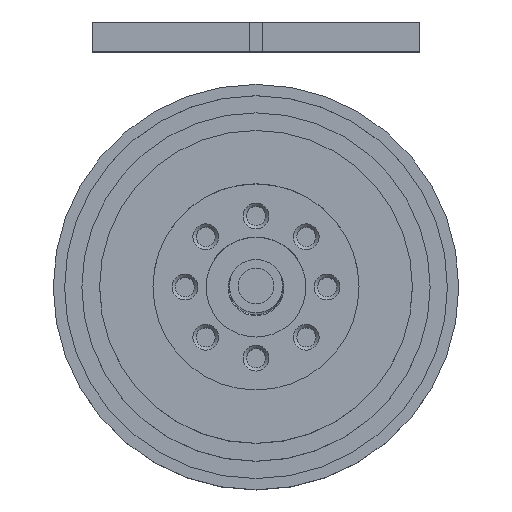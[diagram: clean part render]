
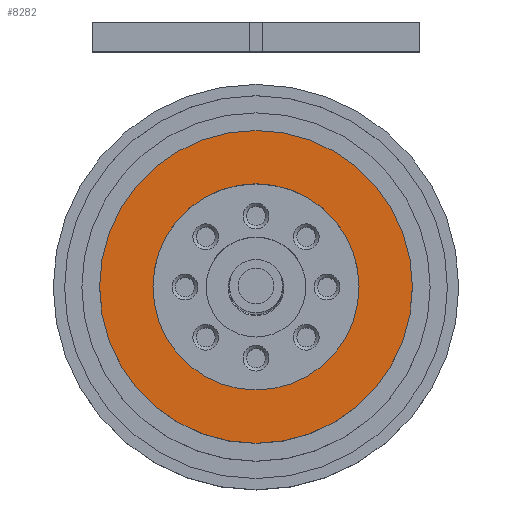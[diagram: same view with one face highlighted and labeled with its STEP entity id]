
A CAD part, top view. The second image highlights one B-rep face of the part: STEP entity #8282.
In plain terms, the highlighted planar face has unit normal (0, 0, 1).
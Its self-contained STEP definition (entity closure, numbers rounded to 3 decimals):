
#747=FACE_BOUND('',#1620,.T.);
#802=PLANE('',#9084);
#1030=FACE_OUTER_BOUND('',#1619,.T.);
#1619=EDGE_LOOP('',(#6373,#6374));
#1620=EDGE_LOOP('',(#6375,#6376));
#2774=CIRCLE('',#9082,35.197);
#2775=CIRCLE('',#9083,35.197);
#2776=CIRCLE('',#9085,23.197);
#2777=CIRCLE('',#9086,23.197);
#3552=VERTEX_POINT('',#14864);
#3553=VERTEX_POINT('',#14865);
#3554=VERTEX_POINT('',#14870);
#3555=VERTEX_POINT('',#14871);
#4549=EDGE_CURVE('',#3552,#3553,#2774,.T.);
#4550=EDGE_CURVE('',#3553,#3552,#2775,.T.);
#4552=EDGE_CURVE('',#3554,#3555,#2776,.T.);
#4553=EDGE_CURVE('',#3555,#3554,#2777,.T.);
#6373=ORIENTED_EDGE('',*,*,#4549,.T.);
#6374=ORIENTED_EDGE('',*,*,#4550,.T.);
#6375=ORIENTED_EDGE('',*,*,#4552,.F.);
#6376=ORIENTED_EDGE('',*,*,#4553,.F.);
#8282=ADVANCED_FACE('',(#1030,#747),#802,.T.);
#9082=AXIS2_PLACEMENT_3D('',#14866,#10750,#10751);
#9083=AXIS2_PLACEMENT_3D('',#14867,#10752,#10753);
#9084=AXIS2_PLACEMENT_3D('',#14869,#10755,#10756);
#9085=AXIS2_PLACEMENT_3D('',#14872,#10757,#10758);
#9086=AXIS2_PLACEMENT_3D('',#14873,#10759,#10760);
#10750=DIRECTION('center_axis',(0.,0.,1.));
#10751=DIRECTION('ref_axis',(1.,0.,0.));
#10752=DIRECTION('center_axis',(0.,0.,1.));
#10753=DIRECTION('ref_axis',(1.,0.,0.));
#10755=DIRECTION('center_axis',(0.,0.,1.));
#10756=DIRECTION('ref_axis',(1.,0.,0.));
#10757=DIRECTION('center_axis',(0.,0.,1.));
#10758=DIRECTION('ref_axis',(1.,0.,0.));
#10759=DIRECTION('center_axis',(0.,0.,1.));
#10760=DIRECTION('ref_axis',(1.,0.,0.));
#14864=CARTESIAN_POINT('',(36.9,-24.803,333.5));
#14865=CARTESIAN_POINT('',(36.9,-95.197,333.5));
#14866=CARTESIAN_POINT('Origin',(36.9,-60.,333.5));
#14867=CARTESIAN_POINT('Origin',(36.9,-60.,333.5));
#14869=CARTESIAN_POINT('Origin',(36.9,-36.803,333.5));
#14870=CARTESIAN_POINT('',(36.9,-36.803,333.5));
#14871=CARTESIAN_POINT('',(36.9,-83.197,333.5));
#14872=CARTESIAN_POINT('Origin',(36.9,-60.,333.5));
#14873=CARTESIAN_POINT('Origin',(36.9,-60.,333.5));
